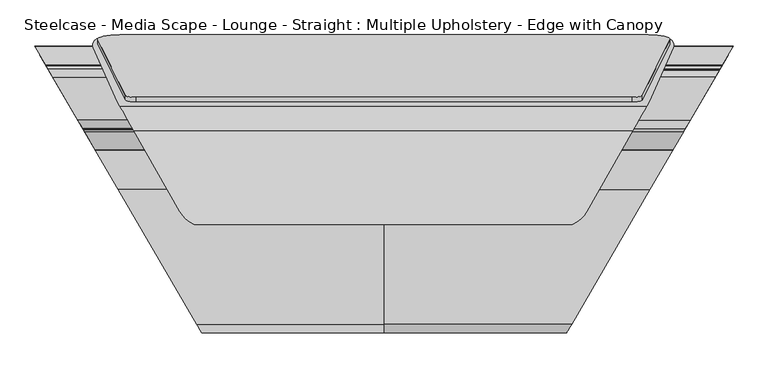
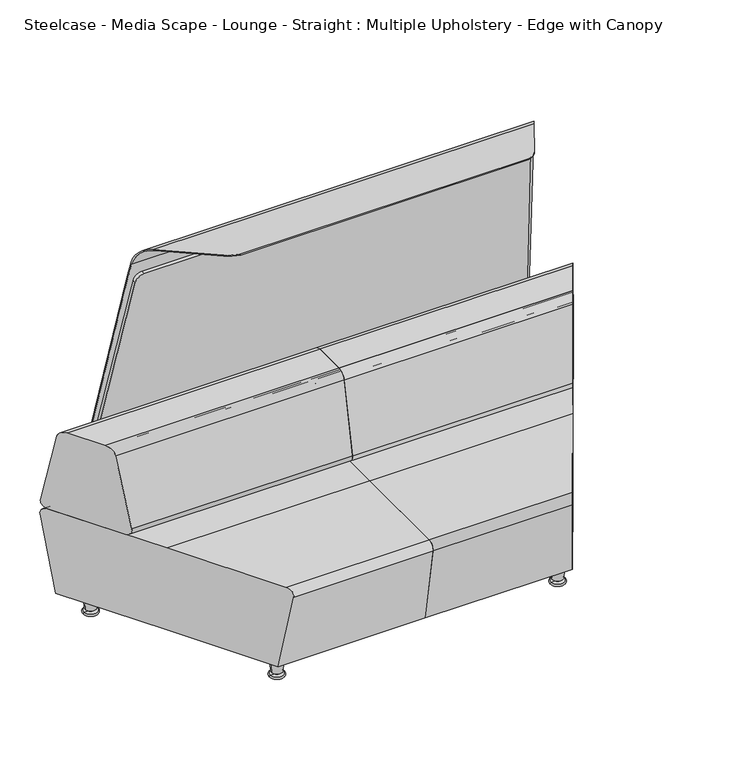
"""IFC4 building model written with IfcOpenShell, lengths in millimetres: furniture geometry, Steelcase - Media Scape - Lounge - Straight : Multiple Upholstery - Edge with Canopy."""

from ifc_helpers import new_model, si_unit, point, frame, frame_2d, origin, place, context, project, spatial, polyline, circle_curve, ellipse_curve, trimmed, segment, composite_curve, outline, extrude, source, transform, mapped, element, save
from ifc_brep_helpers import plane_surface, cylinder_surface, revolved_surface, advanced_brep


def steelcase_media_scape_lounge_straight_multiple_upholstery_894a7443(model_context):
    return source(origin(), model_context, "Body", "SolidModel", [
        extrude(outline(composite_curve([segment(polyline([(-1415.6185057, 0.0), (23.7511862, 0.0)]), True, "CONTINUOUS"), segment(trimmed(circle_curve(frame_2d((23.7511862, -31.75)), 31.75), [point((23.7511862, 0.0))], [point((55.3473815, -28.6286315))], False, "CARTESIAN"), True, "CONTINUOUS"), segment(polyline([(55.3473815, -28.6286315), (135.1417459, -836.3507541)]), True, "CONTINUOUS"), segment(trimmed(circle_curve(frame_2d((71.9493552, -842.5934909)), 63.5), [point((135.1417459, -836.3507541))], [point((71.9493552, -906.0934908))], False, "CARTESIAN"), True, "CONTINUOUS"), segment(polyline([(71.9493552, -906.0934908), (-1463.8166748, -906.0934908)]), True, "CONTINUOUS"), segment(trimmed(circle_curve(frame_2d((-1463.8166748, -842.5934909)), 63.5), [point((-1463.8166748, -906.0934908))], [point((-1527.0090654, -836.3507541))], False, "CARTESIAN"), True, "CONTINUOUS"), segment(polyline([(-1527.0090654, -836.3507541), (-1447.2147011, -28.6286315)]), True, "CONTINUOUS"), segment(trimmed(circle_curve(frame_2d((-1415.6185057, -31.75)), 31.75), [point((-1447.2147011, -28.6286315))], [point((-1415.6185057, 0.0))], False, "CARTESIAN"), True, "CONTINUOUS")], self_intersect=False)), frame((-166.9698071, 655.0019123, 1344.801262), z_axis=(0.0, 0.9796723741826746, 0.20060418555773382), x_axis=(-1.0, 0.0, 0.0)), (0.0, 0.0, 1.0), 13.7320107),
        advanced_brep(
        [(1076.5280427, 315.862875, 1570.0120121), (-21.7753373, 315.862875, 1570.0120121), (-19.3514145, 314.8894993, 1567.0162697), (1074.1041199, 314.8894993, 1567.0162697), (-64.0738464, 353.3851692, 1554.9229177), (-193.5709962, 581.5044703, 1483.2596108), (1248.3237015, 581.5044703, 1483.2596108), (1118.8265517, 353.3851692, 1554.9229177), (-236.9611075, 657.939526, 1398.5726582), (1291.7138128, 657.939526, 1398.5726582), (-245.4256965, 672.8505579, 1325.7790448), (-315.0113816, 829.1425656, 562.7828877), (-308.6715155, 853.1887441, 445.3927408), (1363.4242208, 853.1887441, 445.3927408), (1369.7640869, 829.1425656, 562.7828877), (1300.1784018, 672.8505579, 1325.7790448), (-304.9480444, 855.3584553, 445.837184), (-302.7530382, 856.2990758, 446.0298606), (1357.5057435, 856.2990758, 446.0298606), (1359.7007498, 855.3584553, 445.837184), (-304.9480444, 855.3584553, 450.6218411), (-315.0113816, 829.1425656, 578.6042206), (-245.4256965, 672.8505579, 1341.6003778), (-237.9951573, 659.7610852, 1405.5013892), (1292.7478626, 659.7610852, 1405.5013892), (1300.1784018, 672.8505579, 1341.6003778), (1369.7640869, 829.1425656, 578.6042206), (1359.7007498, 855.3584553, 450.6218411), (-197.6081664, 588.6162597, 1484.3269805), (1252.3608718, 588.6162597, 1484.3269805), (1118.8265517, 353.3851692, 1558.2244445), (-64.0738464, 353.3851692, 1558.2244445)],
        [
            (0, 1),
            (1, 2, ellipse_curve(frame((12.0540789, 396.6009308, 1818.4981974), z_axis=(0.0, -0.9510565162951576, 0.3090169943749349), x_axis=(0.0, -0.30901699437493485, -0.9510565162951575)), 283.281906, 87.5389231)),
            (2, 3),
            (3, 0, ellipse_curve(frame((1042.6986264, 396.6009308, 1818.4981974), z_axis=(0.0, -0.9510565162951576, 0.3090169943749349), x_axis=(0.0, -0.30901699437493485, -0.9510565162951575)), 283.281906, 87.5389231)),
            (2, 4, ellipse_curve(frame((12.0540789, 396.6009308, 1541.3467565), z_axis=(0.0, -0.2997073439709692, -0.9540311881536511), x_axis=(0.0, 0.9540311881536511, -0.29970734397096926)), 91.7568778, 87.5389231)),
            (4, 5),
            (5, 6),
            (6, 7),
            (7, 3, ellipse_curve(frame((1042.6986264, 396.6009308, 1541.3467565), z_axis=(0.0, -0.2997073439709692, -0.9540311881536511), x_axis=(0.0, 0.9540311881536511, -0.29970734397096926)), 91.7568778, 87.5389231)),
            (5, 8, ellipse_curve(frame((-174.445594, 547.8135868, 1376.0144789), z_axis=(-0.8696465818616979, -0.49367481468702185, 0.0), x_axis=(-0.4936748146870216, 0.8696465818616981, 0.0)), 129.2624017, 112.4126058)),
            (8, 9),
            (9, 6, ellipse_curve(frame((1229.1982993, 547.8135868, 1376.0144789), z_axis=(0.869646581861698, -0.49367481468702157, 0.0), x_axis=(-0.4936748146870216, -0.869646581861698, 0.0)), 129.2624017, 112.4126058)),
            (8, 10),
            (10, 11),
            (11, 12, ellipse_curve(frame((-296.8717682, 837.2188418, 523.3556142), z_axis=(0.0, -0.9796582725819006, -0.20067303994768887), x_axis=(0.0, 0.20067303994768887, -0.9796582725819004)), 98.9484134, 19.8562789)),
            (12, 13),
            (13, 14, ellipse_curve(frame((1351.6244735, 837.2188418, 523.3556142), z_axis=(0.0, -0.9796582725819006, -0.20067303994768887), x_axis=(0.0, 0.20067303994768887, -0.9796582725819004)), 98.9484134, 19.8562789)),
            (14, 15),
            (15, 9),
            (12, 16, ellipse_curve(frame((-296.8717682, 837.2188418, 442.1214686), z_axis=(0.0, 0.20067303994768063, -0.9796582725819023), x_axis=(0.0, -0.9796582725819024, -0.2006730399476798)), 20.2685768, 19.8562789)),
            (16, 17, ellipse_curve(frame((-270.3174639, 777.5768979, 429.9044226), z_axis=(0.0, 0.20067303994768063, -0.9796582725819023), x_axis=(0.0, -0.9796582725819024, -0.2006730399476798)), 86.9104226, 85.1425145)),
            (17, 18),
            (18, 19, ellipse_curve(frame((1325.0701692, 777.5768979, 429.9044226), z_axis=(0.0, 0.20067303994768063, -0.9796582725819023), x_axis=(0.0, -0.9796582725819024, -0.2006730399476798)), 86.9104226, 85.1425145)),
            (19, 13, ellipse_curve(frame((1351.6244735, 837.2188418, 442.1214686), z_axis=(0.0, 0.20067303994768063, -0.9796582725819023), x_axis=(0.0, -0.9796582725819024, -0.2006730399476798)), 20.2685768, 19.8562789)),
            (17, 20, ellipse_curve(frame((-270.3174639, 777.5768979, 830.3407419), z_axis=(0.0, 0.9796582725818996, 0.2006730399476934), x_axis=(0.0, 0.20067303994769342, -0.9796582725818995)), 424.2847695, 85.1425145)),
            (20, 21, ellipse_curve(frame((-296.8717682, 837.2188418, 539.1769472), z_axis=(0.0, 0.9796582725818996, 0.2006730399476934), x_axis=(0.0, 0.20067303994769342, -0.9796582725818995)), 98.9484134, 19.8562789)),
            (21, 22),
            (22, 23),
            (23, 24),
            (24, 25),
            (25, 26),
            (26, 27, ellipse_curve(frame((1351.6244735, 837.2188418, 539.1769472), z_axis=(0.0, 0.9796582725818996, 0.2006730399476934), x_axis=(0.0, 0.20067303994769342, -0.9796582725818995)), 98.9484134, 19.8562789)),
            (27, 18, ellipse_curve(frame((1325.0701692, 777.5768979, 830.3407419), z_axis=(0.0, 0.9796582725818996, 0.2006730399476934), x_axis=(0.0, 0.20067303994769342, -0.9796582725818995)), 424.2847695, 85.1425145)),
            (23, 28, ellipse_curve(frame((-179.8064733, 557.2571927, 1384.5045087), z_axis=(0.8696465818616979, 0.49367481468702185, 0.0), x_axis=(0.4936748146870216, -0.8696465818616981, 0.0)), 120.3158803, 104.632294)),
            (28, 29),
            (29, 24, ellipse_curve(frame((1234.5591787, 557.2571927, 1384.5045087), z_axis=(-0.869646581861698, 0.49367481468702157, 0.0), x_axis=(0.4936748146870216, 0.869646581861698, 0.0)), 120.3158803, 104.632294)),
            (0, 30, ellipse_curve(frame((1042.6986264, 396.6009308, 1544.6482834), z_axis=(0.0, 0.29970734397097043, 0.9540311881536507), x_axis=(0.0, 0.9540311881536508, -0.29970734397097)), 91.7568778, 87.5389231)),
            (30, 29),
            (28, 31),
            (31, 1, ellipse_curve(frame((12.0540789, 396.6009308, 1544.6482834), z_axis=(0.0, 0.29970734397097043, 0.9540311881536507), x_axis=(0.0, 0.9540311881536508, -0.29970734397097)), 91.7568778, 87.5389231)),
            (10, 22),
            (21, 11),
            (20, 16),
            (31, 4),
            (15, 25),
            (30, 7),
            (27, 19),
            (26, 14),
        ],
        [
            plane_surface(frame((1420.6196209, 315.862875, 1570.0120121), z_axis=(0.0, -0.9510565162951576, 0.3090169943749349), x_axis=(-1.0, 0.0, 0.0))),
            plane_surface(frame((1420.6196209, 314.8894993, 1567.0162697), z_axis=(0.0, -0.2997073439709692, -0.9540311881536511), x_axis=(-1.0, 0.0, 0.0))),
            revolved_surface(polyline([(-238.25918620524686, 435.40098100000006, 1376.0144789), (1293.0118915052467, 435.40098100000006, 1376.0144789)]), (-365.811857, 547.8135868, 1376.0144789), (-1.0, 0.0, 0.0)),
            plane_surface(frame((1420.6196209, 657.939526, 1398.5726582), z_axis=(0.0, -0.9796582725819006, -0.20067303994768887), x_axis=(-1.0, 0.0, 0.0))),
            plane_surface(frame((1420.6196209, 853.1887441, 445.3927408), z_axis=(0.0, 0.20067303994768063, -0.9796582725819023), x_axis=(-1.0, 0.0, 0.0))),
            plane_surface(frame((1420.6196209, 856.2990758, 446.0298606), z_axis=(0.0, 0.9796582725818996, 0.2006730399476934), x_axis=(-1.0, 0.0, 0.0))),
            cylinder_surface(frame((-365.811857, 557.2571927, 1384.5045087), z_axis=(1.0, 0.0, 0.0), x_axis=(0.0, -1.0, 0.0)), 104.632294),
            plane_surface(frame((1420.6196209, 588.6162597, 1484.3269805), z_axis=(0.0, 0.29970734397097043, 0.9540311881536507), x_axis=(-1.0, 0.0, 0.0))),
            plane_surface(frame((-245.4256965, 672.8505579, 1835.1143061), z_axis=(-0.9135454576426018, -0.40673664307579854, 0.0), x_axis=(0.0, 0.0, -1.0))),
            cylinder_surface(frame((-296.8717682, 837.2188418, 445.3927408), z_axis=(0.0, 0.0, -1.0), x_axis=(1.0, 0.0, 0.0)), 19.8562789),
            cylinder_surface(frame((-270.3174639, 777.5768979, 445.3927408), z_axis=(0.0, 0.0, -1.0), x_axis=(1.0, 0.0, 0.0)), 85.1425145),
            cylinder_surface(frame((12.0540789, 396.6009308, 445.3927408), z_axis=(0.0, 0.0, -1.0), x_axis=(1.0, 0.0, 0.0)), 87.5389231),
            plane_surface(frame((-64.0738464, 353.3851692, 1835.1143061), z_axis=(-0.8696465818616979, -0.49367481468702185, 0.0), x_axis=(0.0, 0.0, -1.0))),
            plane_surface(frame((1300.1784018, 672.8505579, 1835.1143061), z_axis=(0.869646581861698, -0.49367481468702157, 0.0), x_axis=(0.0, 0.0, -1.0))),
            cylinder_surface(frame((1042.6986264, 396.6009308, 0.0), z_axis=(0.0, 0.0, -1.0), x_axis=(-1.0, 0.0, 0.0)), 87.5389231),
            cylinder_surface(frame((1325.0701692, 777.5768979, 0.0), z_axis=(0.0, 0.0, -1.0), x_axis=(-1.0, 0.0, 0.0)), 85.1425145),
            cylinder_surface(frame((1351.6244735, 837.2188418, 0.0), z_axis=(0.0, 0.0, -1.0), x_axis=(-1.0, 0.0, 0.0)), 19.8562789),
            plane_surface(frame((1369.7640869, 829.1425656, 1835.1143061), z_axis=(0.9135454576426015, -0.40673664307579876, 0.0), x_axis=(0.0, 0.0, -1.0))),
        ],
        [
            (0, [[1, 2, 3, 4]]),
            (1, [[-3, 5, 6, 7, 8, 9]]),
            (2, [[-7, 10, 11, 12]]),
            (3, [[-11, 13, 14, 15, 16, 17, 18, 19]]),
            (4, [[-16, 20, 21, 22, 23, 24]]),
            (5, [[-22, 25, 26, 27, 28, 29, 30, 31, 32, 33]]),
            (6, [[-29, 34, 35, 36]]),
            (7, [[-1, 37, 38, -35, 39, 40]]),
            (8, [[41, -27, 42, -14]]),
            (9, [[-42, -26, 43, -20, -15]]),
            (10, [[-43, -25, -21]]),
            (11, [[44, -5, -2, -40]]),
            (12, [[-41, -13, -10, -6, -44, -39, -34, -28]]),
            (13, [[45, -30, -36, -38, 46, -8, -12, -19]]),
            (14, [[-46, -37, -4, -9]]),
            (15, [[47, -23, -33]]),
            (16, [[-47, -32, 48, -17, -24]]),
            (17, [[-45, -18, -48, -31]]),
        ],
    ),
        extrude(outline(composite_curve([segment(polyline([(-1415.6185057, 0.0), (23.7511862, 0.0)]), True, "CONTINUOUS"), segment(trimmed(circle_curve(frame_2d((23.7511862, -31.75)), 31.75), [point((23.7511862, 0.0))], [point((55.3473815, -28.6286315))], False, "CARTESIAN"), True, "CONTINUOUS"), segment(polyline([(55.3473815, -28.6286315), (135.1417459, -836.3507541)]), True, "CONTINUOUS"), segment(trimmed(circle_curve(frame_2d((71.9493552, -842.5934909)), 63.5), [point((135.1417459, -836.3507541))], [point((71.9493552, -906.0934908))], False, "CARTESIAN"), True, "CONTINUOUS"), segment(polyline([(71.9493552, -906.0934908), (-1463.8166748, -906.0934908)]), True, "CONTINUOUS"), segment(trimmed(circle_curve(frame_2d((-1463.8166748, -842.5934909)), 63.5), [point((-1463.8166748, -906.0934908))], [point((-1527.0090654, -836.3507541))], False, "CARTESIAN"), True, "CONTINUOUS"), segment(polyline([(-1527.0090654, -836.3507541), (-1447.2147011, -28.6286315)]), True, "CONTINUOUS"), segment(trimmed(circle_curve(frame_2d((-1415.6185057, -31.75)), 31.75), [point((-1447.2147011, -28.6286315))], [point((-1415.6185057, 0.0))], False, "CARTESIAN"), True, "CONTINUOUS")], self_intersect=False)), frame((-166.9698071, 671.5649733, 1348.1940367), z_axis=(0.0, 0.9796723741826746, 0.20060418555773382), x_axis=(-1.0, 0.0, 0.0)), (0.0, 0.0, 1.0), 13.7320107),
        advanced_brep(
        [(-432.9507329, 744.618392, 735.1171206), (-452.3869175, 778.0460766, 707.6422134), (-483.7023664, 831.9045354, 434.7626426), (-469.2133128, 806.9852663, 404.4443065), (-323.688364, 556.7014693, 404.4443065), (-309.1993104, 531.7822003, 434.7626426), (-340.5147593, 585.640659, 707.6422134), (-359.950944, 619.0683436, 735.1171206), (528.9638527, 744.618392, 735.1171206), (528.9638527, 619.0683436, 735.1171206), (528.9638527, 585.640659, 707.6422134), (528.9638527, 531.7822003, 434.7626426), (528.9638527, 556.7014693, 404.4443065), (528.9638527, 806.9852663, 404.4443065), (528.9638527, 831.9045354, 434.7626426), (528.9638527, 778.0460766, 707.6422134)],
        [
            (0, 1, ellipse_curve(frame((-432.9507329, 744.618392, 701.0445646), z_axis=(-0.8644905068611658, -0.5026491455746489, 0.0), x_axis=(-0.5026491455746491, 0.8644905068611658, 0.0)), 39.413453, 34.0725559)),
            (1, 2),
            (2, 3, ellipse_curve(frame((-469.2133128, 806.9852663, 429.8443065), z_axis=(-0.8644905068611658, -0.5026491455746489, 0.0), x_axis=(-0.5026491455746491, 0.8644905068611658, 0.0)), 29.3814678, 25.4)),
            (3, 4),
            (4, 5, ellipse_curve(frame((-323.688364, 556.7014693, 429.8443065), z_axis=(-0.8644905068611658, -0.5026491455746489, 0.0), x_axis=(-0.502649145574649, 0.8644905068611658, 0.0)), 29.3814678, 25.4)),
            (5, 6),
            (6, 7, ellipse_curve(frame((-359.950944, 619.0683436, 701.0445646), z_axis=(-0.8644905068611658, -0.5026491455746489, 0.0), x_axis=(-0.502649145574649, 0.8644905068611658, 0.0)), 39.413453, 34.0725559)),
            (7, 0),
            (8, 9),
            (9, 10, circle_curve(frame((528.9638527, 619.0683436, 701.0445646), z_axis=(1.0, 0.0, 0.0), x_axis=(0.0, -1.0, 0.0)), 34.0725559)),
            (10, 11),
            (11, 12, circle_curve(frame((528.9638527, 556.7014693, 429.8443065), z_axis=(1.0, 0.0, 0.0), x_axis=(0.0, -1.0, 0.0)), 25.4)),
            (12, 13),
            (13, 14, circle_curve(frame((528.9638527, 806.9852663, 429.8443065), z_axis=(1.0, 0.0, 0.0), x_axis=(0.0, 1.0, 0.0)), 25.4)),
            (14, 15),
            (15, 8, circle_curve(frame((528.9638527, 744.618392, 701.0445646), z_axis=(1.0, 0.0, 0.0), x_axis=(0.0, 1.0, 0.0)), 34.0725559)),
            (15, 1),
            (0, 8),
            (14, 2),
            (13, 3),
            (12, 4),
            (11, 5),
            (10, 6),
            (9, 7),
        ],
        [
            plane_surface(frame((22.6450752, -38.9465548, 744.9721396), z_axis=(-0.8644905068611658, -0.5026491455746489, 0.0), x_axis=(0.0, 0.0, -1.0))),
            plane_surface(frame((528.9638527, 778.690948, 701.0445646), z_axis=(1.0, 0.0, 0.0), x_axis=(0.0, 0.0, 1.0))),
            cylinder_surface(frame((528.9638527, 744.618392, 701.0445646), z_axis=(-1.0, 0.0, 0.0), x_axis=(0.0, 1.0, 0.0)), 34.0725559),
            plane_surface(frame((-497.7585178, 778.0460766, 707.6422134), z_axis=(0.0, 0.9810735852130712, 0.19363527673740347), x_axis=(1.0, 0.0, 0.0))),
            cylinder_surface(frame((528.9638527, 806.9852663, 429.8443065), z_axis=(-1.0, 0.0, 0.0), x_axis=(0.0, 1.0, 0.0)), 25.4),
            plane_surface(frame((-497.7585178, 806.9852663, 404.4443065), z_axis=(0.0, 0.0, -1.0), x_axis=(1.0, 0.0, 0.0))),
            cylinder_surface(frame((528.9638527, 556.7014693, 429.8443065), z_axis=(-1.0, 0.0, 0.0), x_axis=(0.0, -1.0, 0.0)), 25.4),
            plane_surface(frame((-497.7585178, 531.7822003, 434.7626426), z_axis=(0.0, -0.9810735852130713, 0.1936352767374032), x_axis=(1.0, 0.0, 0.0))),
            cylinder_surface(frame((528.9638527, 619.0683436, 701.0445646), z_axis=(-1.0, 0.0, 0.0), x_axis=(0.0, -1.0, 0.0)), 34.0725559),
            plane_surface(frame((-497.7585178, 619.0683436, 735.1171206), z_axis=(0.0, 0.0, 1.0), x_axis=(1.0, 0.0, 0.0))),
        ],
        [
            (0, [[1, 2, 3, 4, 5, 6, 7, 8]]),
            (1, [[9, 10, 11, 12, 13, 14, 15, 16]]),
            (2, [[-16, 17, -1, 18]]),
            (3, [[-15, 19, -2, -17]]),
            (4, [[-14, 20, -3, -19]]),
            (5, [[-13, 21, -4, -20]]),
            (6, [[-12, 22, -5, -21]]),
            (7, [[-11, 23, -6, -22]]),
            (8, [[-10, 24, -7, -23]]),
            (9, [[-9, -18, -8, -24]]),
        ],
    ),
        advanced_brep(
        [(528.9638527, 416.9525328, 404.4443065), (528.9638527, 25.4465658, 404.4443065), (528.9638527, 0.4050887, 374.7917281), (528.9638527, 51.3770305, 74.6414242), (528.9638527, 416.9525328, 74.6414242), (528.9638527, 782.5280351, 74.6414242), (528.9638527, 833.4999769, 374.7917281), (528.9638527, 808.4584998, 404.4443065), (-242.4327771, 416.9525328, 404.4443065), (-14.7956449, 25.4465658, 404.4443065), (-0.2355347, 0.4050887, 374.7917281), (-29.8726479, 51.3770305, 74.6414242), (-242.4327771, 416.9525328, 74.6414242), (-454.9929064, 782.5280351, 74.6414242), (-484.6300196, 833.4999769, 374.7917281), (-470.0699093, 808.4584998, 404.4443065)],
        [
            (0, 1),
            (1, 2, circle_curve(frame((528.9638527, 25.4465658, 379.0443065), z_axis=(1.0, 0.0, 0.0), x_axis=(0.0, -1.0, 0.0)), 25.4)),
            (2, 3),
            (3, 4),
            (4, 5),
            (5, 6),
            (6, 7, circle_curve(frame((528.9638527, 808.4584998, 379.0443065), z_axis=(1.0, 0.0, 0.0), x_axis=(0.0, 1.0, 0.0)), 25.4)),
            (7, 0),
            (0, 8),
            (8, 9),
            (9, 1),
            (9, 10, ellipse_curve(frame((-14.7956449, 25.4465658, 379.0443065), z_axis=(0.8644905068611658, 0.5026491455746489, 0.0), x_axis=(0.502649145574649, -0.8644905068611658, 0.0)), 29.3814678, 25.4)),
            (10, 2),
            (10, 11),
            (11, 3),
            (11, 12),
            (12, 4),
            (12, 13),
            (13, 5),
            (13, 14),
            (14, 6),
            (14, 15, ellipse_curve(frame((-470.0699093, 808.4584998, 379.0443065), z_axis=(0.8644905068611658, 0.5026491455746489, 0.0), x_axis=(0.502649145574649, -0.8644905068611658, 0.0)), 29.3814678, 25.4)),
            (15, 7),
            (15, 8),
        ],
        [
            plane_surface(frame((528.9638527, -57.5722485, 404.4443065), z_axis=(1.0, 0.0, 0.0), x_axis=(0.0, -1.0, 0.0))),
            plane_surface(frame((528.9638527, 416.9525328, 404.4443065), z_axis=(0.0, 0.0, 1.0), x_axis=(-1.0, 0.0, 0.0))),
            cylinder_surface(frame((-497.7585178, 25.4465658, 379.0443065), z_axis=(1.0, 0.0, 0.0), x_axis=(0.0, -1.0, 0.0)), 25.4),
            plane_surface(frame((528.9638527, 0.4050887, 374.7917281), z_axis=(0.0, -0.9858849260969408, -0.16742434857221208), x_axis=(-1.0, 0.0, 0.0))),
            plane_surface(frame((528.9638527, 51.3770305, 74.6414242), z_axis=(0.0, 0.0, -1.0), x_axis=(-1.0, 0.0, 0.0))),
            plane_surface(frame((528.9638527, 416.9525328, 74.6414242), z_axis=(0.0, 0.0, -1.0), x_axis=(-1.0, 0.0, 0.0))),
            plane_surface(frame((528.9638527, 782.5280351, 74.6414242), z_axis=(0.0, 0.9858849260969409, -0.1674243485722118), x_axis=(-1.0, 0.0, 0.0))),
            cylinder_surface(frame((-497.7585178, 808.4584998, 379.0443065), z_axis=(1.0, 0.0, 0.0), x_axis=(0.0, 1.0, 0.0)), 25.4),
            plane_surface(frame((528.9638527, 808.4584998, 404.4443065), z_axis=(0.0, 0.0, 1.0), x_axis=(-1.0, 0.0, 0.0))),
            plane_surface(frame((22.6450752, -38.9465548, 744.9721396), z_axis=(-0.8644905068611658, -0.5026491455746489, 0.0), x_axis=(0.0, 0.0, -1.0))),
        ],
        [
            (0, [[1, 2, 3, 4, 5, 6, 7, 8]]),
            (1, [[-1, 9, 10, 11]]),
            (2, [[-2, -11, 12, 13]]),
            (3, [[-3, -13, 14, 15]]),
            (4, [[-4, -15, 16, 17]]),
            (5, [[-5, -17, 18, 19]]),
            (6, [[-6, -19, 20, 21]]),
            (7, [[-7, -21, 22, 23]]),
            (8, [[-8, -23, 24, -9]]),
            (9, [[-10, -24, -22, -20, -18, -16, -14, -12]]),
        ],
    ),
        advanced_brep(
        [(1528.798605, 808.4584998, 404.4443065), (1301.6333208, 416.9525328, 404.4443065), (1074.4680366, 25.4465658, 404.4443065), (1059.9381066, 0.4050887, 374.7917281), (1089.5137878, 51.3770305, 74.6414242), (1301.6333208, 416.9525328, 74.6414242), (1513.7528538, 782.5280351, 74.6414242), (1543.328535, 833.4999769, 374.7917281), (528.9638527, 416.9525328, 404.4443065), (528.9638527, 808.4584998, 404.4443065), (528.9638527, 833.4999769, 374.7917281), (528.9638527, 782.5280351, 74.6414242), (528.9638527, 416.9525328, 74.6414242), (528.9638527, 51.3770305, 74.6414242), (528.9638527, 0.4050887, 374.7917281), (528.9638527, 25.4465658, 404.4443065)],
        [
            (0, 1),
            (1, 2),
            (2, 3, ellipse_curve(frame((1074.4680366, 25.4465658, 379.0443065), z_axis=(0.8649431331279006, -0.5018698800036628, 0.0), x_axis=(-0.5018698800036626, -0.8649431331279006, 0.0)), 29.3660924, 25.4)),
            (3, 4),
            (4, 5),
            (5, 6),
            (6, 7),
            (7, 0, ellipse_curve(frame((1528.798605, 808.4584998, 379.0443065), z_axis=(0.8649431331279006, -0.5018698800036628, 0.0), x_axis=(-0.5018698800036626, -0.8649431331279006, 0.0)), 29.3660924, 25.4)),
            (8, 9),
            (9, 10, circle_curve(frame((528.9638527, 808.4584998, 379.0443065), z_axis=(-1.0, 0.0, 0.0), x_axis=(0.0, 1.0, 0.0)), 25.4)),
            (10, 11),
            (11, 12),
            (12, 13),
            (13, 14),
            (14, 15, circle_curve(frame((528.9638527, 25.4465658, 379.0443065), z_axis=(-1.0, 0.0, 0.0), x_axis=(0.0, -1.0, 0.0)), 25.4)),
            (15, 8),
            (8, 1),
            (0, 9),
            (7, 10),
            (6, 11),
            (5, 12),
            (4, 13),
            (3, 14),
            (2, 15),
        ],
        [
            plane_surface(frame((1544.0895768, 834.8115876, 744.9721396), z_axis=(0.8649431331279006, -0.5018698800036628, 0.0), x_axis=(0.0, 0.0, -1.0))),
            plane_surface(frame((528.9638527, 891.4773142, 404.4443065), z_axis=(-1.0, 0.0, 0.0), x_axis=(0.0, 1.0, 0.0))),
            plane_surface(frame((528.9638527, 416.9525328, 404.4443065), z_axis=(0.0, 0.0, 1.0), x_axis=(1.0, 0.0, 0.0))),
            cylinder_surface(frame((1555.6862231, 808.4584998, 379.0443065), z_axis=(-1.0, 0.0, 0.0), x_axis=(0.0, 1.0, 0.0)), 25.4),
            plane_surface(frame((528.9638527, 833.4999769, 374.7917281), z_axis=(0.0, 0.9858849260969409, -0.1674243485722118), x_axis=(1.0, 0.0, 0.0))),
            plane_surface(frame((528.9638527, 782.5280351, 74.6414242), z_axis=(0.0, 0.0, -1.0), x_axis=(1.0, 0.0, 0.0))),
            plane_surface(frame((528.9638527, 416.9525328, 74.6414242), z_axis=(0.0, 0.0, -1.0), x_axis=(1.0, 0.0, 0.0))),
            plane_surface(frame((528.9638527, 51.3770305, 74.6414242), z_axis=(0.0, -0.9858849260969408, -0.16742434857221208), x_axis=(1.0, 0.0, 0.0))),
            cylinder_surface(frame((1555.6862231, 25.4465658, 379.0443065), z_axis=(-1.0, 0.0, 0.0), x_axis=(0.0, -1.0, 0.0)), 25.4),
            plane_surface(frame((528.9638527, 25.4465658, 404.4443065), z_axis=(0.0, 0.0, 1.0), x_axis=(1.0, 0.0, 0.0))),
        ],
        [
            (0, [[1, 2, 3, 4, 5, 6, 7, 8]]),
            (1, [[9, 10, 11, 12, 13, 14, 15, 16]]),
            (2, [[-9, 17, -1, 18]]),
            (3, [[-10, -18, -8, 19]]),
            (4, [[-11, -19, -7, 20]]),
            (5, [[-12, -20, -6, 21]]),
            (6, [[-13, -21, -5, 22]]),
            (7, [[-14, -22, -4, 23]]),
            (8, [[-15, -23, -3, 24]]),
            (9, [[-16, -24, -2, -17]]),
        ],
    ),
        advanced_brep(
        [(528.9638527, 744.618392, 735.1171206), (528.9638527, 778.0460766, 707.6422134), (528.9638527, 831.9045354, 434.7626426), (528.9638527, 806.9852663, 404.4443065), (528.9638527, 556.7014693, 404.4443065), (528.9638527, 531.7822003, 434.7626426), (528.9638527, 585.640659, 707.6422134), (528.9638527, 619.0683436, 735.1171206), (1418.9078951, 619.0683436, 735.1171206), (1491.7563695, 744.618392, 735.1171206), (1399.5119979, 585.640659, 707.6422134), (1368.26146, 531.7822003, 434.7626426), (1382.7204806, 556.7014693, 404.4443065), (1527.9437841, 806.9852663, 404.4443065), (1542.4028047, 831.9045354, 434.7626426), (1511.1522667, 778.0460766, 707.6422134)],
        [
            (0, 1, circle_curve(frame((528.9638527, 744.618392, 701.0445646), z_axis=(-1.0, 0.0, 0.0), x_axis=(0.0, 1.0, 0.0)), 34.0725559)),
            (1, 2),
            (2, 3, circle_curve(frame((528.9638527, 806.9852663, 429.8443065), z_axis=(-1.0, 0.0, 0.0), x_axis=(0.0, 1.0, 0.0)), 25.4)),
            (3, 4),
            (4, 5, circle_curve(frame((528.9638527, 556.7014693, 429.8443065), z_axis=(-1.0, 0.0, 0.0), x_axis=(0.0, -1.0, 0.0)), 25.4)),
            (5, 6),
            (6, 7, circle_curve(frame((528.9638527, 619.0683436, 701.0445646), z_axis=(-1.0, 0.0, 0.0), x_axis=(0.0, -1.0, 0.0)), 34.0725559)),
            (7, 0),
            (7, 8),
            (8, 9),
            (9, 0),
            (6, 10),
            (10, 8, ellipse_curve(frame((1418.9078951, 619.0683436, 701.0445646), z_axis=(-0.8649431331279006, 0.5018698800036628, 0.0), x_axis=(0.5018698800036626, 0.8649431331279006, 0.0)), 39.3928279, 34.0725559)),
            (5, 11),
            (11, 10),
            (4, 12),
            (12, 11, ellipse_curve(frame((1382.7204806, 556.7014693, 429.8443065), z_axis=(-0.8649431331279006, 0.5018698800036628, 0.0), x_axis=(0.5018698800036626, 0.8649431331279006, 0.0)), 29.3660924, 25.4)),
            (3, 13),
            (13, 12),
            (2, 14),
            (14, 13, ellipse_curve(frame((1527.9437841, 806.9852663, 429.8443065), z_axis=(-0.8649431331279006, 0.5018698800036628, 0.0), x_axis=(0.5018698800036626, 0.8649431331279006, 0.0)), 29.3660924, 25.4)),
            (1, 15),
            (15, 14),
            (9, 15, ellipse_curve(frame((1491.7563695, 744.618392, 701.0445646), z_axis=(-0.8649431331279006, 0.5018698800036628, 0.0), x_axis=(0.5018698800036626, 0.8649431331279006, 0.0)), 39.3928279, 34.0725559)),
        ],
        [
            plane_surface(frame((528.9638527, 567.2050656, 735.1171206), z_axis=(-1.0, 0.0, 0.0), x_axis=(0.0, 1.0, 0.0))),
            plane_surface(frame((1555.6862231, 744.618392, 735.1171206), z_axis=(0.0, 0.0, 1.0), x_axis=(-1.0, 0.0, 0.0))),
            cylinder_surface(frame((528.9638527, 619.0683436, 701.0445646), z_axis=(1.0, 0.0, 0.0), x_axis=(0.0, -1.0, 0.0)), 34.0725559),
            plane_surface(frame((1555.6862231, 585.640659, 707.6422134), z_axis=(0.0, -0.9810735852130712, 0.19363527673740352), x_axis=(-1.0, 0.0, 0.0))),
            cylinder_surface(frame((528.9638527, 556.7014693, 429.8443065), z_axis=(1.0, 0.0, 0.0), x_axis=(0.0, -1.0, 0.0)), 25.4),
            plane_surface(frame((1555.6862231, 556.7014693, 404.4443065), z_axis=(0.0, 0.0, -1.0), x_axis=(-1.0, 0.0, 0.0))),
            cylinder_surface(frame((528.9638527, 806.9852663, 429.8443065), z_axis=(1.0, 0.0, 0.0), x_axis=(0.0, 1.0, 0.0)), 25.4),
            plane_surface(frame((1555.6862231, 831.9045354, 434.7626426), z_axis=(0.0, 0.9810735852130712, 0.19363527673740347), x_axis=(-1.0, 0.0, 0.0))),
            cylinder_surface(frame((528.9638527, 744.618392, 701.0445646), z_axis=(1.0, 0.0, 0.0), x_axis=(0.0, 1.0, 0.0)), 34.0725559),
            plane_surface(frame((1544.0895768, 834.8115876, 744.9721396), z_axis=(0.8649431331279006, -0.5018698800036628, 0.0), x_axis=(0.0, 0.0, -1.0))),
        ],
        [
            (0, [[1, 2, 3, 4, 5, 6, 7, 8]]),
            (1, [[-8, 9, 10, 11]]),
            (2, [[-7, 12, 13, -9]]),
            (3, [[-6, 14, 15, -12]]),
            (4, [[-5, 16, 17, -14]]),
            (5, [[-4, 18, 19, -16]]),
            (6, [[-3, 20, 21, -18]]),
            (7, [[-2, 22, 23, -20]]),
            (8, [[-1, -11, 24, -22]]),
            (9, [[-10, -13, -15, -17, -19, -21, -23, -24]]),
        ],
    ),
        advanced_brep(
        [(1491.8775039, 744.8271599, 735.3711206), (1418.7867608, 618.8595758, 735.3711206), (1399.3908636, 585.4318912, 707.8962134), (1511.273401, 778.2548445, 707.8962134), (528.9638527, 744.8271599, 735.3711206), (528.9638527, 778.2548445, 707.8962134), (528.9638527, 585.4318912, 707.8962134), (528.9638527, 618.8595758, 735.3711206)],
        [
            (0, 1),
            (1, 2, ellipse_curve(frame((1418.7867608, 618.8595758, 701.2985646), z_axis=(0.8649431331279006, -0.5018698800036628, 0.0), x_axis=(0.5018698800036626, 0.8649431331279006, 0.0)), 39.3928279, 34.0725559)),
            (2, 3),
            (3, 0, ellipse_curve(frame((1491.8775039, 744.8271599, 701.2985646), z_axis=(0.8649431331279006, -0.5018698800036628, 0.0), x_axis=(0.5018698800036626, 0.8649431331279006, 0.0)), 39.3928279, 34.0725559)),
            (4, 5, circle_curve(frame((528.9638527, 744.8271599, 701.2985646), z_axis=(-1.0, 0.0, 0.0), x_axis=(0.0, 1.0, 0.0)), 34.0725559)),
            (5, 6),
            (6, 7, circle_curve(frame((528.9638527, 618.8595758, 701.2985646), z_axis=(-1.0, 0.0, 0.0), x_axis=(0.0, -1.0, 0.0)), 34.0725559)),
            (7, 4),
            (7, 1),
            (0, 4),
            (6, 2),
            (5, 3),
        ],
        [
            plane_surface(frame((1544.0895768, 834.8115876, 1808.8293217), z_axis=(0.8649431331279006, -0.5018698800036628, 0.0), x_axis=(0.0, 0.0, -1.0))),
            plane_surface(frame((528.9638527, 567.2050656, 735.3711206), z_axis=(-1.0, 0.0, 0.0), x_axis=(0.0, 1.0, 0.0))),
            plane_surface(frame((1555.6862231, 744.8271599, 735.3711206), z_axis=(0.0, 0.0, 1.0), x_axis=(-1.0, 0.0, 0.0))),
            cylinder_surface(frame((528.9638527, 618.8595758, 701.2985646), z_axis=(1.0, 0.0, 0.0), x_axis=(0.0, -1.0, 0.0)), 34.0725559),
            plane_surface(frame((1555.6862231, 585.4318912, 707.8962134), z_axis=(0.0, 0.0, -1.0), x_axis=(-1.0, 0.0, 0.0))),
            cylinder_surface(frame((528.9638527, 744.8271599, 701.2985646), z_axis=(1.0, 0.0, 0.0), x_axis=(0.0, 1.0, 0.0)), 34.0725559),
        ],
        [
            (0, [[1, 2, 3, 4]]),
            (1, [[5, 6, 7, 8]]),
            (2, [[-8, 9, -1, 10]]),
            (3, [[-7, 11, -2, -9]]),
            (4, [[-6, 12, -3, -11]]),
            (5, [[-5, -10, -4, -12]]),
        ],
    ),
        advanced_brep(
        [(-433.0721188, 744.8271599, 735.3711206), (-452.5083035, 778.2548445, 707.8962134), (-340.3933734, 585.4318912, 707.8962134), (-359.829558, 618.8595758, 735.3711206), (528.9638527, 744.8271599, 735.3711206), (528.9638527, 618.8595758, 735.3711206), (528.9638527, 585.4318912, 707.8962134), (528.9638527, 778.2548445, 707.8962134)],
        [
            (0, 1, ellipse_curve(frame((-433.0721188, 744.8271599, 701.2985646), z_axis=(-0.8644905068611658, -0.5026491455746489, 0.0), x_axis=(-0.5026491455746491, 0.8644905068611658, 0.0)), 39.413453, 34.0725559)),
            (1, 2),
            (2, 3, ellipse_curve(frame((-359.829558, 618.8595758, 701.2985646), z_axis=(-0.8644905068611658, -0.5026491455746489, 0.0), x_axis=(-0.502649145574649, 0.8644905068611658, 0.0)), 39.413453, 34.0725559)),
            (3, 0),
            (4, 5),
            (5, 6, circle_curve(frame((528.9638527, 618.8595758, 701.2985646), z_axis=(1.0, 0.0, 0.0), x_axis=(0.0, -1.0, 0.0)), 34.0725559)),
            (6, 7),
            (7, 4, circle_curve(frame((528.9638527, 744.8271599, 701.2985646), z_axis=(1.0, 0.0, 0.0), x_axis=(0.0, 1.0, 0.0)), 34.0725559)),
            (7, 1),
            (0, 4),
            (6, 2),
            (5, 3),
        ],
        [
            plane_surface(frame((22.6450752, -38.9465548, 1808.8293217), z_axis=(-0.8644905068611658, -0.5026491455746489, 0.0), x_axis=(0.0, 0.0, -1.0))),
            plane_surface(frame((528.9638527, 778.8997158, 701.2985646), z_axis=(1.0, 0.0, 0.0), x_axis=(0.0, 0.0, 1.0))),
            cylinder_surface(frame((528.9638527, 744.8271599, 701.2985646), z_axis=(-1.0, 0.0, 0.0), x_axis=(0.0, 1.0, 0.0)), 34.0725559),
            plane_surface(frame((-497.7585178, 778.2548445, 707.8962134), z_axis=(0.0, 0.0, -1.0), x_axis=(1.0, 0.0, 0.0))),
            cylinder_surface(frame((528.9638527, 618.8595758, 701.2985646), z_axis=(-1.0, 0.0, 0.0), x_axis=(0.0, -1.0, 0.0)), 34.0725559),
            plane_surface(frame((-497.7585178, 618.8595758, 735.3711206), z_axis=(0.0, 0.0, 1.0), x_axis=(1.0, 0.0, 0.0))),
        ],
        [
            (0, [[1, 2, 3, 4]]),
            (1, [[5, 6, 7, 8]]),
            (2, [[-8, 9, -1, 10]]),
            (3, [[-7, 11, -2, -9]]),
            (4, [[-6, 12, -3, -11]]),
            (5, [[-5, -10, -4, -12]]),
        ],
    ),
        advanced_brep(
        [(1415.6593492, 727.0057274, 74.1561731), (1439.4462694, 727.0057274, 74.1561731), (1391.8724291, 727.0057274, 74.1561731), (1389.605707, 727.0057274, 0.0), (1441.7129915, 727.0057274, 0.0), (1415.6593492, 727.0057274, 0.0), (1389.605707, 727.0057274, 6.3788302), (1441.7129915, 727.0057274, 6.3788302), (1406.1343492, 727.0057274, 6.3788302), (1425.1843492, 727.0057274, 6.3788302), (1406.1343492, 727.0057274, 17.057519), (1425.1843492, 727.0057274, 17.057519), (1394.704233, 727.0057274, 17.057519), (1436.6144655, 727.0057274, 17.057519)],
        [
            (0, 1),
            (1, 2, circle_curve(frame((1415.6593492, 727.0057274, 74.1561731), z_axis=(0.0, 0.0, 1.0), x_axis=(1.0, 0.0, 0.0)), 23.7869202)),
            (2, 0),
            (2, 1, circle_curve(frame((1415.6593492, 727.0057274, 74.1561731), z_axis=(0.0, 0.0, 1.0), x_axis=(1.0, 0.0, 0.0)), 23.7869202)),
            (3, 4, circle_curve(frame((1415.6593492, 727.0057274, 0.0), z_axis=(0.0, 0.0, -1.0), x_axis=(1.0, 0.0, 0.0)), 26.0536423)),
            (4, 5),
            (5, 3),
            (4, 3, circle_curve(frame((1415.6593492, 727.0057274, 0.0), z_axis=(0.0, 0.0, -1.0), x_axis=(1.0, 0.0, 0.0)), 26.0536423)),
            (3, 6, circle_curve(frame((1389.605707, 727.0057274, 3.1894151), z_axis=(0.0, 1.0, 0.0), x_axis=(-1.0, 0.0, 0.0)), 3.1894151)),
            (6, 7, circle_curve(frame((1415.6593492, 727.0057274, 6.3788302), z_axis=(0.0, 0.0, -1.0), x_axis=(1.0, 0.0, 0.0)), 26.0536423)),
            (7, 4, circle_curve(frame((1441.7129915, 727.0057274, 3.1894151), z_axis=(0.0, 1.0, 0.0), x_axis=(1.0, 0.0, 0.0)), 3.1894151)),
            (7, 6, circle_curve(frame((1415.6593492, 727.0057274, 6.3788302), z_axis=(0.0, 0.0, -1.0), x_axis=(1.0, 0.0, 0.0)), 26.0536423)),
            (6, 8),
            (8, 9, circle_curve(frame((1415.6593492, 727.0057274, 6.3788302), z_axis=(0.0, 0.0, -1.0), x_axis=(1.0, 0.0, 0.0)), 9.525)),
            (9, 7),
            (9, 8, circle_curve(frame((1415.6593492, 727.0057274, 6.3788302), z_axis=(0.0, 0.0, -1.0), x_axis=(1.0, 0.0, 0.0)), 9.525)),
            (8, 10),
            (10, 11, circle_curve(frame((1415.6593492, 727.0057274, 17.057519), z_axis=(0.0, 0.0, -1.0), x_axis=(1.0, 0.0, 0.0)), 9.525)),
            (11, 9),
            (11, 10, circle_curve(frame((1415.6593492, 727.0057274, 17.057519), z_axis=(0.0, 0.0, -1.0), x_axis=(1.0, 0.0, 0.0)), 9.525)),
            (10, 12),
            (12, 13, circle_curve(frame((1415.6593492, 727.0057274, 17.057519), z_axis=(0.0, 0.0, -1.0), x_axis=(1.0, 0.0, 0.0)), 20.9551163)),
            (13, 11),
            (13, 12, circle_curve(frame((1415.6593492, 727.0057274, 17.057519), z_axis=(0.0, 0.0, -1.0), x_axis=(1.0, 0.0, 0.0)), 20.9551163)),
            (1, 13),
            (12, 2),
        ],
        [
            plane_surface(frame((1415.6593492, 727.0057274, 74.1561731), z_axis=(0.0, 0.0, 1.0), x_axis=(1.0, 0.0, 0.0))),
            plane_surface(frame((1415.6593492, 727.0057274, 0.0), z_axis=(0.0, 0.0, -1.0), x_axis=(1.0, 0.0, 0.0))),
            revolved_surface(trimmed(ellipse_curve(frame((1441.7129915, 727.0057274, 3.1894151), z_axis=(0.0, -1.0, 0.0), x_axis=(1.0, 0.0, 0.0)), 3.1894151, 3.1894151), [point((1441.7129915, 727.0057274, 0.0))], [point((1441.7129915, 727.0057274, 6.3788302))], True, "CARTESIAN"), (1415.6593492, 727.0057274, 61.4561731), (0.0, 0.0, 1.0)),
            plane_surface(frame((1415.6593492, 727.0057274, 6.3788302), z_axis=(0.0, 0.0, 1.0), x_axis=(1.0, 0.0, 0.0))),
            cylinder_surface(frame((1415.6593492, 727.0057274, 61.4561731), z_axis=(0.0, 0.0, 1.0), x_axis=(1.0, 0.0, 0.0)), 9.525),
            plane_surface(frame((1415.6593492, 727.0057274, 17.057519), z_axis=(0.0, 0.0, -1.0), x_axis=(1.0, 0.0, 0.0))),
            revolved_surface(polyline([(1436.6144655, 727.0057274, 17.057519), (1439.4462694, 727.0057274, 74.1561731)]), (1415.6593492, 727.0057274, 61.4561731), (0.0, 0.0, 1.0)),
        ],
        [
            (0, [[1, 2, 3]]),
            (0, [[-1, -3, 4]]),
            (1, [[5, 6, 7]]),
            (1, [[-6, 8, -7]]),
            (2, [[-5, 9, 10, 11]]),
            (2, [[-8, -11, 12, -9]]),
            (3, [[-10, 13, 14, 15]]),
            (3, [[-12, -15, 16, -13]]),
            (4, [[-14, 17, 18, 19]]),
            (4, [[-16, -19, 20, -17]]),
            (5, [[-18, 21, 22, 23]]),
            (5, [[-20, -23, 24, -21]]),
            (6, [[-2, 25, -22, 26]]),
            (6, [[-4, -26, -24, -25]]),
        ],
    ),
        advanced_brep(
        [(1064.6697268, 106.8143681, 74.1561731), (1088.4566469, 106.8143681, 74.1561731), (1040.8828066, 106.8143681, 74.1561731), (1038.6160845, 106.8143681, 0.0), (1090.723369, 106.8143681, 0.0), (1064.6697268, 106.8143681, 0.0), (1038.6160845, 106.8143681, 6.3788302), (1090.723369, 106.8143681, 6.3788302), (1055.1447268, 106.8143681, 6.3788302), (1074.1947268, 106.8143681, 6.3788302), (1055.1447268, 106.8143681, 17.057519), (1074.1947268, 106.8143681, 17.057519), (1043.7146105, 106.8143681, 17.057519), (1085.624843, 106.8143681, 17.057519)],
        [
            (0, 1),
            (1, 2, circle_curve(frame((1064.6697268, 106.8143681, 74.1561731), z_axis=(0.0, 0.0, 1.0), x_axis=(1.0, 0.0, 0.0)), 23.7869202)),
            (2, 0),
            (2, 1, circle_curve(frame((1064.6697268, 106.8143681, 74.1561731), z_axis=(0.0, 0.0, 1.0), x_axis=(1.0, 0.0, 0.0)), 23.7869202)),
            (3, 4, circle_curve(frame((1064.6697268, 106.8143681, 0.0), z_axis=(0.0, 0.0, -1.0), x_axis=(1.0, 0.0, 0.0)), 26.0536423)),
            (4, 5),
            (5, 3),
            (4, 3, circle_curve(frame((1064.6697268, 106.8143681, 0.0), z_axis=(0.0, 0.0, -1.0), x_axis=(1.0, 0.0, 0.0)), 26.0536423)),
            (3, 6, circle_curve(frame((1038.6160845, 106.8143681, 3.1894151), z_axis=(0.0, 1.0, 0.0), x_axis=(-1.0, 0.0, 0.0)), 3.1894151)),
            (6, 7, circle_curve(frame((1064.6697268, 106.8143681, 6.3788302), z_axis=(0.0, 0.0, -1.0), x_axis=(1.0, 0.0, 0.0)), 26.0536423)),
            (7, 4, circle_curve(frame((1090.723369, 106.8143681, 3.1894151), z_axis=(0.0, 1.0, 0.0), x_axis=(1.0, 0.0, 0.0)), 3.1894151)),
            (7, 6, circle_curve(frame((1064.6697268, 106.8143681, 6.3788302), z_axis=(0.0, 0.0, -1.0), x_axis=(1.0, 0.0, 0.0)), 26.0536423)),
            (6, 8),
            (8, 9, circle_curve(frame((1064.6697268, 106.8143681, 6.3788302), z_axis=(0.0, 0.0, -1.0), x_axis=(1.0, 0.0, 0.0)), 9.525)),
            (9, 7),
            (9, 8, circle_curve(frame((1064.6697268, 106.8143681, 6.3788302), z_axis=(0.0, 0.0, -1.0), x_axis=(1.0, 0.0, 0.0)), 9.525)),
            (8, 10),
            (10, 11, circle_curve(frame((1064.6697268, 106.8143681, 17.057519), z_axis=(0.0, 0.0, -1.0), x_axis=(1.0, 0.0, 0.0)), 9.525)),
            (11, 9),
            (11, 10, circle_curve(frame((1064.6697268, 106.8143681, 17.057519), z_axis=(0.0, 0.0, -1.0), x_axis=(1.0, 0.0, 0.0)), 9.525)),
            (10, 12),
            (12, 13, circle_curve(frame((1064.6697268, 106.8143681, 17.057519), z_axis=(0.0, 0.0, -1.0), x_axis=(1.0, 0.0, 0.0)), 20.9551163)),
            (13, 11),
            (13, 12, circle_curve(frame((1064.6697268, 106.8143681, 17.057519), z_axis=(0.0, 0.0, -1.0), x_axis=(1.0, 0.0, 0.0)), 20.9551163)),
            (1, 13),
            (12, 2),
        ],
        [
            plane_surface(frame((1064.6697268, 106.8143681, 74.1561731), z_axis=(0.0, 0.0, 1.0), x_axis=(1.0, 0.0, 0.0))),
            plane_surface(frame((1064.6697268, 106.8143681, 0.0), z_axis=(0.0, 0.0, -1.0), x_axis=(1.0, 0.0, 0.0))),
            revolved_surface(trimmed(ellipse_curve(frame((1090.723369, 106.8143681, 3.1894151), z_axis=(0.0, -1.0, 0.0), x_axis=(1.0, 0.0, 0.0)), 3.1894151, 3.1894151), [point((1090.723369, 106.8143681, 0.0))], [point((1090.723369, 106.8143681, 6.3788302))], True, "CARTESIAN"), (1064.6697268, 106.8143681, 61.4561731), (0.0, 0.0, 1.0)),
            plane_surface(frame((1064.6697268, 106.8143681, 6.3788302), z_axis=(0.0, 0.0, 1.0), x_axis=(1.0, 0.0, 0.0))),
            cylinder_surface(frame((1064.6697268, 106.8143681, 61.4561731), z_axis=(0.0, 0.0, 1.0), x_axis=(1.0, 0.0, 0.0)), 9.525),
            plane_surface(frame((1064.6697268, 106.8143681, 17.057519), z_axis=(0.0, 0.0, -1.0), x_axis=(1.0, 0.0, 0.0))),
            revolved_surface(polyline([(1085.624843, 106.8143681, 17.057519), (1088.4566469, 106.8143681, 74.1561731)]), (1064.6697268, 106.8143681, 61.4561731), (0.0, 0.0, 1.0)),
        ],
        [
            (0, [[1, 2, 3]]),
            (0, [[-1, -3, 4]]),
            (1, [[5, 6, 7]]),
            (1, [[-6, 8, -7]]),
            (2, [[-5, 9, 10, 11]]),
            (2, [[-8, -11, 12, -9]]),
            (3, [[-10, 13, 14, 15]]),
            (3, [[-12, -15, 16, -13]]),
            (4, [[-14, 17, 18, 19]]),
            (4, [[-16, -19, 20, -17]]),
            (5, [[-18, 21, 22, 23]]),
            (5, [[-20, -23, 24, -21]]),
            (6, [[-2, 25, -22, 26]]),
            (6, [[-4, -26, -24, -25]]),
        ],
    ),
        advanced_brep(
        [(-3.0976561, 106.8143681, 74.1561731), (20.6892641, 106.8143681, 74.1561731), (-26.8845762, 106.8143681, 74.1561731), (-29.1512983, 106.8143681, 0.0), (22.9559862, 106.8143681, 0.0), (-3.0976561, 106.8143681, 0.0), (-29.1512983, 106.8143681, 6.3788302), (22.9559862, 106.8143681, 6.3788302), (-12.6226561, 106.8143681, 6.3788302), (6.4273439, 106.8143681, 6.3788302), (-12.6226561, 106.8143681, 17.057519), (6.4273439, 106.8143681, 17.057519), (-24.0527723, 106.8143681, 17.057519), (17.8574602, 106.8143681, 17.057519)],
        [
            (0, 1),
            (1, 2, circle_curve(frame((-3.0976561, 106.8143681, 74.1561731), z_axis=(0.0, 0.0, 1.0), x_axis=(1.0, 0.0, 0.0)), 23.7869202)),
            (2, 0),
            (2, 1, circle_curve(frame((-3.0976561, 106.8143681, 74.1561731), z_axis=(0.0, 0.0, 1.0), x_axis=(1.0, 0.0, 0.0)), 23.7869202)),
            (3, 4, circle_curve(frame((-3.0976561, 106.8143681, 0.0), z_axis=(0.0, 0.0, -1.0), x_axis=(1.0, 0.0, 0.0)), 26.0536423)),
            (4, 5),
            (5, 3),
            (4, 3, circle_curve(frame((-3.0976561, 106.8143681, 0.0), z_axis=(0.0, 0.0, -1.0), x_axis=(1.0, 0.0, 0.0)), 26.0536423)),
            (3, 6, circle_curve(frame((-29.1512983, 106.8143681, 3.1894151), z_axis=(0.0, 1.0, 0.0), x_axis=(-1.0, 0.0, 0.0)), 3.1894151)),
            (6, 7, circle_curve(frame((-3.0976561, 106.8143681, 6.3788302), z_axis=(0.0, 0.0, -1.0), x_axis=(1.0, 0.0, 0.0)), 26.0536423)),
            (7, 4, circle_curve(frame((22.9559862, 106.8143681, 3.1894151), z_axis=(0.0, 1.0, 0.0), x_axis=(1.0, 0.0, 0.0)), 3.1894151)),
            (7, 6, circle_curve(frame((-3.0976561, 106.8143681, 6.3788302), z_axis=(0.0, 0.0, -1.0), x_axis=(1.0, 0.0, 0.0)), 26.0536423)),
            (6, 8),
            (8, 9, circle_curve(frame((-3.0976561, 106.8143681, 6.3788302), z_axis=(0.0, 0.0, -1.0), x_axis=(1.0, 0.0, 0.0)), 9.525)),
            (9, 7),
            (9, 8, circle_curve(frame((-3.0976561, 106.8143681, 6.3788302), z_axis=(0.0, 0.0, -1.0), x_axis=(1.0, 0.0, 0.0)), 9.525)),
            (8, 10),
            (10, 11, circle_curve(frame((-3.0976561, 106.8143681, 17.057519), z_axis=(0.0, 0.0, -1.0), x_axis=(1.0, 0.0, 0.0)), 9.525)),
            (11, 9),
            (11, 10, circle_curve(frame((-3.0976561, 106.8143681, 17.057519), z_axis=(0.0, 0.0, -1.0), x_axis=(1.0, 0.0, 0.0)), 9.525)),
            (10, 12),
            (12, 13, circle_curve(frame((-3.0976561, 106.8143681, 17.057519), z_axis=(0.0, 0.0, -1.0), x_axis=(1.0, 0.0, 0.0)), 20.9551163)),
            (13, 11),
            (13, 12, circle_curve(frame((-3.0976561, 106.8143681, 17.057519), z_axis=(0.0, 0.0, -1.0), x_axis=(1.0, 0.0, 0.0)), 20.9551163)),
            (1, 13),
            (12, 2),
        ],
        [
            plane_surface(frame((-3.0976561, 106.8143681, 74.1561731), z_axis=(0.0, 0.0, 1.0), x_axis=(1.0, 0.0, 0.0))),
            plane_surface(frame((-3.0976561, 106.8143681, 0.0), z_axis=(0.0, 0.0, -1.0), x_axis=(1.0, 0.0, 0.0))),
            revolved_surface(trimmed(ellipse_curve(frame((22.9559862, 106.8143681, 3.1894151), z_axis=(0.0, -1.0, 0.0), x_axis=(1.0, 0.0, 0.0)), 3.1894151, 3.1894151), [point((22.9559862, 106.8143681, 0.0))], [point((22.9559862, 106.8143681, 6.3788302))], True, "CARTESIAN"), (-3.0976561, 106.8143681, 61.4561731), (0.0, 0.0, 1.0)),
            plane_surface(frame((-3.0976561, 106.8143681, 6.3788302), z_axis=(0.0, 0.0, 1.0), x_axis=(1.0, 0.0, 0.0))),
            cylinder_surface(frame((-3.0976561, 106.8143681, 61.4561731), z_axis=(0.0, 0.0, 1.0), x_axis=(1.0, 0.0, 0.0)), 9.525),
            plane_surface(frame((-3.0976561, 106.8143681, 17.057519), z_axis=(0.0, 0.0, -1.0), x_axis=(1.0, 0.0, 0.0))),
            revolved_surface(polyline([(17.8574602, 106.8143681, 17.057519), (20.6892641, 106.8143681, 74.1561731)]), (-3.0976561, 106.8143681, 61.4561731), (0.0, 0.0, 1.0)),
        ],
        [
            (0, [[1, 2, 3]]),
            (0, [[-1, -3, 4]]),
            (1, [[5, 6, 7]]),
            (1, [[-6, 8, -7]]),
            (2, [[-5, 9, 10, 11]]),
            (2, [[-8, -11, 12, -9]]),
            (3, [[-10, 13, 14, 15]]),
            (3, [[-12, -15, 16, -13]]),
            (4, [[-14, 17, 18, 19]]),
            (4, [[-16, -19, 20, -17]]),
            (5, [[-18, 21, 22, 23]]),
            (5, [[-20, -23, 24, -21]]),
            (6, [[-2, 25, -22, 26]]),
            (6, [[-4, -26, -24, -25]]),
        ],
    ),
        advanced_brep(
        [(-353.6250975, 727.0057274, 74.1561731), (-329.8381773, 727.0057274, 74.1561731), (-377.4120176, 727.0057274, 74.1561731), (-379.6787397, 727.0057274, 0.0), (-327.5714552, 727.0057274, 0.0), (-353.6250975, 727.0057274, 0.0), (-379.6787397, 727.0057274, 6.3788302), (-327.5714552, 727.0057274, 6.3788302), (-363.1500975, 727.0057274, 6.3788302), (-344.1000975, 727.0057274, 6.3788302), (-363.1500975, 727.0057274, 17.057519), (-344.1000975, 727.0057274, 17.057519), (-374.5802137, 727.0057274, 17.057519), (-332.6699812, 727.0057274, 17.057519)],
        [
            (0, 1),
            (1, 2, circle_curve(frame((-353.6250975, 727.0057274, 74.1561731), z_axis=(0.0, 0.0, 1.0), x_axis=(1.0, 0.0, 0.0)), 23.7869202)),
            (2, 0),
            (2, 1, circle_curve(frame((-353.6250975, 727.0057274, 74.1561731), z_axis=(0.0, 0.0, 1.0), x_axis=(1.0, 0.0, 0.0)), 23.7869202)),
            (3, 4, circle_curve(frame((-353.6250975, 727.0057274, 0.0), z_axis=(0.0, 0.0, -1.0), x_axis=(1.0, 0.0, 0.0)), 26.0536423)),
            (4, 5),
            (5, 3),
            (4, 3, circle_curve(frame((-353.6250975, 727.0057274, 0.0), z_axis=(0.0, 0.0, -1.0), x_axis=(1.0, 0.0, 0.0)), 26.0536423)),
            (3, 6, circle_curve(frame((-379.6787397, 727.0057274, 3.1894151), z_axis=(0.0, 1.0, 0.0), x_axis=(-1.0, 0.0, 0.0)), 3.1894151)),
            (6, 7, circle_curve(frame((-353.6250975, 727.0057274, 6.3788302), z_axis=(0.0, 0.0, -1.0), x_axis=(1.0, 0.0, 0.0)), 26.0536423)),
            (7, 4, circle_curve(frame((-327.5714552, 727.0057274, 3.1894151), z_axis=(0.0, 1.0, 0.0), x_axis=(1.0, 0.0, 0.0)), 3.1894151)),
            (7, 6, circle_curve(frame((-353.6250975, 727.0057274, 6.3788302), z_axis=(0.0, 0.0, -1.0), x_axis=(1.0, 0.0, 0.0)), 26.0536423)),
            (6, 8),
            (8, 9, circle_curve(frame((-353.6250975, 727.0057274, 6.3788302), z_axis=(0.0, 0.0, -1.0), x_axis=(1.0, 0.0, 0.0)), 9.525)),
            (9, 7),
            (9, 8, circle_curve(frame((-353.6250975, 727.0057274, 6.3788302), z_axis=(0.0, 0.0, -1.0), x_axis=(1.0, 0.0, 0.0)), 9.525)),
            (8, 10),
            (10, 11, circle_curve(frame((-353.6250975, 727.0057274, 17.057519), z_axis=(0.0, 0.0, -1.0), x_axis=(1.0, 0.0, 0.0)), 9.525)),
            (11, 9),
            (11, 10, circle_curve(frame((-353.6250975, 727.0057274, 17.057519), z_axis=(0.0, 0.0, -1.0), x_axis=(1.0, 0.0, 0.0)), 9.525)),
            (10, 12),
            (12, 13, circle_curve(frame((-353.6250975, 727.0057274, 17.057519), z_axis=(0.0, 0.0, -1.0), x_axis=(1.0, 0.0, 0.0)), 20.9551163)),
            (13, 11),
            (13, 12, circle_curve(frame((-353.6250975, 727.0057274, 17.057519), z_axis=(0.0, 0.0, -1.0), x_axis=(1.0, 0.0, 0.0)), 20.9551163)),
            (1, 13),
            (12, 2),
        ],
        [
            plane_surface(frame((-353.6250975, 727.0057274, 74.1561731), z_axis=(0.0, 0.0, 1.0), x_axis=(1.0, 0.0, 0.0))),
            plane_surface(frame((-353.6250975, 727.0057274, 0.0), z_axis=(0.0, 0.0, -1.0), x_axis=(1.0, 0.0, 0.0))),
            revolved_surface(trimmed(ellipse_curve(frame((-327.5714552, 727.0057274, 3.1894151), z_axis=(0.0, -1.0, 0.0), x_axis=(1.0, 0.0, 0.0)), 3.1894151, 3.1894151), [point((-327.5714552, 727.0057274, 0.0))], [point((-327.5714552, 727.0057274, 6.3788302))], True, "CARTESIAN"), (-353.6250975, 727.0057274, 61.4561731), (0.0, 0.0, 1.0)),
            plane_surface(frame((-353.6250975, 727.0057274, 6.3788302), z_axis=(0.0, 0.0, 1.0), x_axis=(1.0, 0.0, 0.0))),
            cylinder_surface(frame((-353.6250975, 727.0057274, 61.4561731), z_axis=(0.0, 0.0, 1.0), x_axis=(1.0, 0.0, 0.0)), 9.525),
            plane_surface(frame((-353.6250975, 727.0057274, 17.057519), z_axis=(0.0, 0.0, -1.0), x_axis=(1.0, 0.0, 0.0))),
            revolved_surface(polyline([(-332.6699812, 727.0057274, 17.057519), (-329.8381773, 727.0057274, 74.1561731)]), (-353.6250975, 727.0057274, 61.4561731), (0.0, 0.0, 1.0)),
        ],
        [
            (0, [[1, 2, 3]]),
            (0, [[-1, -3, 4]]),
            (1, [[5, 6, 7]]),
            (1, [[-6, 8, -7]]),
            (2, [[-5, 9, 10, 11]]),
            (2, [[-8, -11, 12, -9]]),
            (3, [[-10, 13, 14, 15]]),
            (3, [[-12, -15, 16, -13]]),
            (4, [[-14, 17, 18, 19]]),
            (4, [[-16, -19, 20, -17]]),
            (5, [[-18, 21, 22, 23]]),
            (5, [[-20, -23, 24, -21]]),
            (6, [[-2, 25, -22, 26]]),
            (6, [[-4, -26, -24, -25]]),
        ],
    ),
    ])


if __name__ == "__main__":
    model = new_model("IFC4")
    model_context = context("Model", 3, world=origin())
    ifc_project = project(units=[si_unit("LENGTHUNIT", "METRE", prefix="MILLI")], contexts=[model_context])
    site = spatial("IfcSite", under=ifc_project)
    building = spatial("IfcBuilding", under=site)
    placement = place(None, origin())
    steelcase_media_scape_lounge_straight_multiple_upholstery_shape = steelcase_media_scape_lounge_straight_multiple_upholstery_894a7443(model_context)
    element("IfcFurniture", 1, ObjectType="Steelcase - Media Scape - Lounge - Straight : Multiple Upholstery - Edge with Canopy", at=placement, inside=building, context=model_context, shape_type="MappedRepresentation", body=[
        mapped(steelcase_media_scape_lounge_straight_multiple_upholstery_shape, transform((0.0, 0.0, 0.0), x_axis=(1.0, 0.0, 0.0), y_axis=(0.0, 1.0, 0.0), z_axis=(0.0, 0.0, 1.0))),
    ])
    save(model, "model.ifc")
